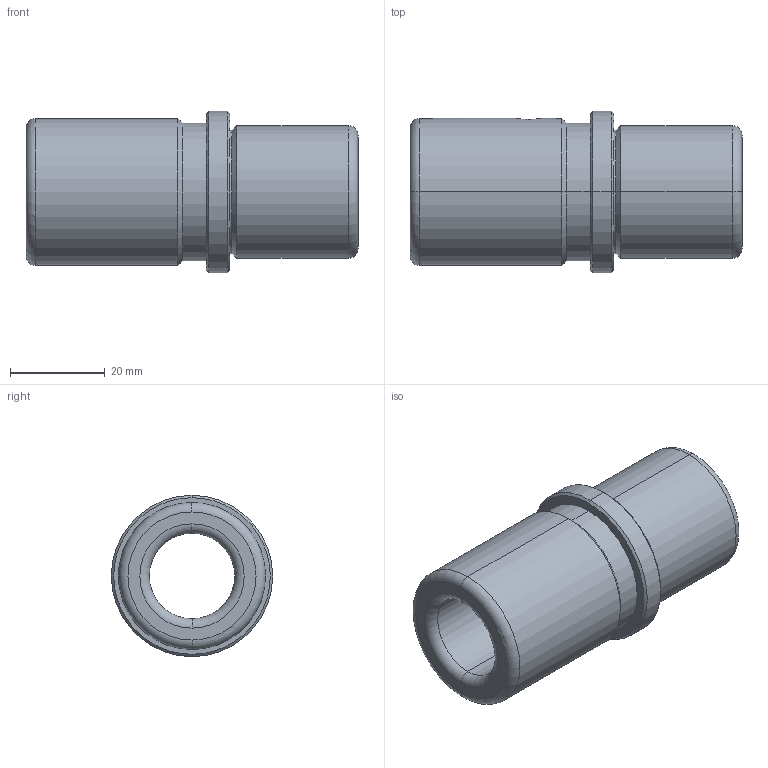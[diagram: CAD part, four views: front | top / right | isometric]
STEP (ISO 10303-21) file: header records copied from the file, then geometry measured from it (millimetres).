
FILE_DESCRIPTION(('CATIA V5 STEP Exchange'),'2;1');
FILE_NAME('C:\Users\Utente\Desktop\IO LAVORO\3D X SITO CF\X SITO\FAMO\FAMO-SF1-D18 x 70.stp','2021-01-06T17:07:20+00:00',('none'),('none'),'CATIA Version 5 Release 20 GA (IN-10)','CATIA V5 STEP AP203','none');
FILE_SCHEMA(('CONFIG_CONTROL_DESIGN'));
Length unit declared in the file: millimetre
Products named in the file (1): FAMO-SF1-D18 x 70
Bounding box: 70 x 34 x 34 mm (x, y, z)
Volume: 30861.5 mm3; surface area: 11952.5 mm2
Topology: 1 solids, 1 shells, 37 faces, 117 edges, 85 vertices
Faces by surface type: cylinder 14, cone 10, torus 8, plane 5
Entity records: 1542 total; most frequent: CARTESIAN_POINT 455, ORIENTED_EDGE 234, DIRECTION 180, AXIS2_PLACEMENT_3D 120, EDGE_CURVE 117, VERTEX_POINT 85, CIRCLE 82, EDGE_LOOP 44
